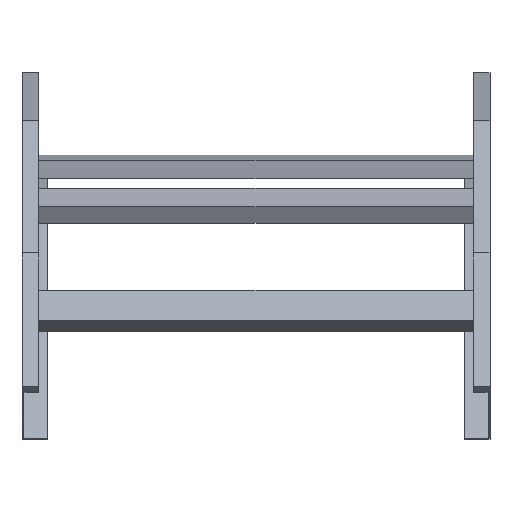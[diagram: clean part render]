
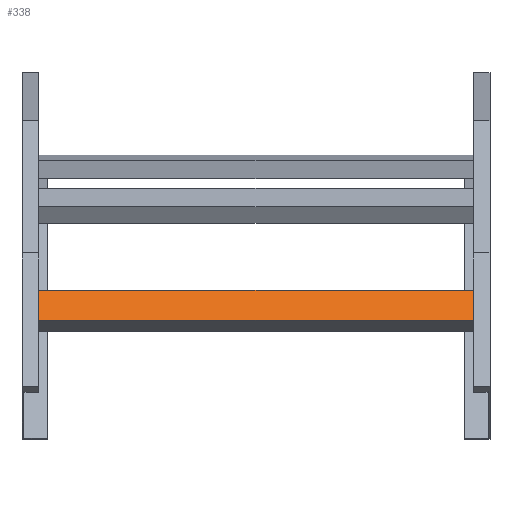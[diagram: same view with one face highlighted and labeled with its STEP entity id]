
A CAD part, top view. The second image highlights one B-rep face of the part: STEP entity #338.
In plain terms, the highlighted planar face has unit normal (0, 0.609, 0.793) as drawn and (0, 1, 0) by its records, which use the part's own axes.
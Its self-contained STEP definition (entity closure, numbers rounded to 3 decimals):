
#70 = ORIENTED_EDGE ( 'NONE', *, *, #229, .T. ) ;
#102 = VERTEX_POINT ( 'NONE', #1075 ) ;
#122 = LINE ( 'NONE', #1163, #1609 ) ;
#162 = FACE_OUTER_BOUND ( 'NONE', #947, .T. ) ;
#229 = EDGE_CURVE ( 'NONE', #1048, #102, #417, .T. ) ;
#256 = EDGE_CURVE ( 'NONE', #1048, #819, #122, .T. ) ;
#267 = CARTESIAN_POINT ( 'NONE',  ( -248., 20., 20.25 ) ) ;
#302 = DIRECTION ( 'NONE',  ( 0., 0., -1. ) ) ;
#338 = ADVANCED_FACE ( 'NONE', ( #162 ), #1481, .F. ) ;
#417 = LINE ( 'NONE', #908, #698 ) ;
#475 = AXIS2_PLACEMENT_3D ( 'NONE', #1334, #959, #302 ) ;
#552 = VECTOR ( 'NONE', #785, 1000. ) ;
#634 = CARTESIAN_POINT ( 'NONE',  ( 248., 20., 20.25 ) ) ;
#698 = VECTOR ( 'NONE', #1296, 1000. ) ;
#751 = LINE ( 'NONE', #1660, #767 ) ;
#767 = VECTOR ( 'NONE', #989, 1000. ) ;
#785 = DIRECTION ( 'NONE',  ( 0., 0., 1. ) ) ;
#810 = VERTEX_POINT ( 'NONE', #1525 ) ;
#819 = VERTEX_POINT ( 'NONE', #634 ) ;
#908 = CARTESIAN_POINT ( 'NONE',  ( 248., 20., -20.25 ) ) ;
#947 = EDGE_LOOP ( 'NONE', ( #1151, #1321, #985, #70 ) ) ;
#959 = DIRECTION ( 'NONE',  ( 0., -1., 0. ) ) ;
#985 = ORIENTED_EDGE ( 'NONE', *, *, #256, .F. ) ;
#989 = DIRECTION ( 'NONE',  ( -1., 0., 0. ) ) ;
#1048 = VERTEX_POINT ( 'NONE', #1235 ) ;
#1075 = CARTESIAN_POINT ( 'NONE',  ( -248., 20., -20.25 ) ) ;
#1151 = ORIENTED_EDGE ( 'NONE', *, *, #1435, .T. ) ;
#1163 = CARTESIAN_POINT ( 'NONE',  ( 248., 20., 20.25 ) ) ;
#1201 = EDGE_CURVE ( 'NONE', #819, #810, #751, .T. ) ;
#1235 = CARTESIAN_POINT ( 'NONE',  ( 248., 20., -20.25 ) ) ;
#1296 = DIRECTION ( 'NONE',  ( -1., 0., 0. ) ) ;
#1321 = ORIENTED_EDGE ( 'NONE', *, *, #1201, .F. ) ;
#1334 = CARTESIAN_POINT ( 'NONE',  ( 248., 20., 20.25 ) ) ;
#1435 = EDGE_CURVE ( 'NONE', #102, #810, #1442, .T. ) ;
#1442 = LINE ( 'NONE', #267, #552 ) ;
#1481 = PLANE ( 'NONE',  #475 ) ;
#1525 = CARTESIAN_POINT ( 'NONE',  ( -248., 20., 20.25 ) ) ;
#1609 = VECTOR ( 'NONE', #1691, 1000. ) ;
#1660 = CARTESIAN_POINT ( 'NONE',  ( 248., 20., 20.25 ) ) ;
#1691 = DIRECTION ( 'NONE',  ( 0., 0., 1. ) ) ;
